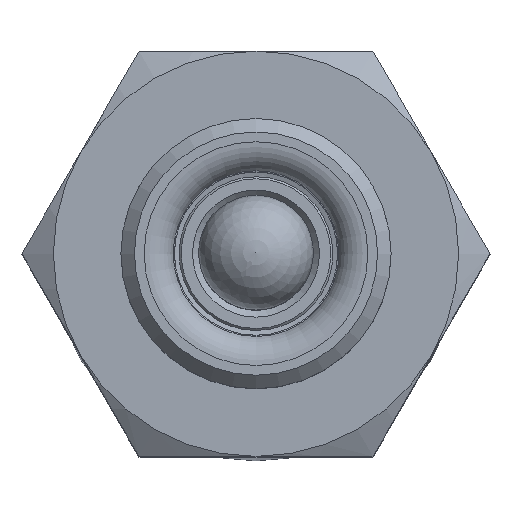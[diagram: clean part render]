
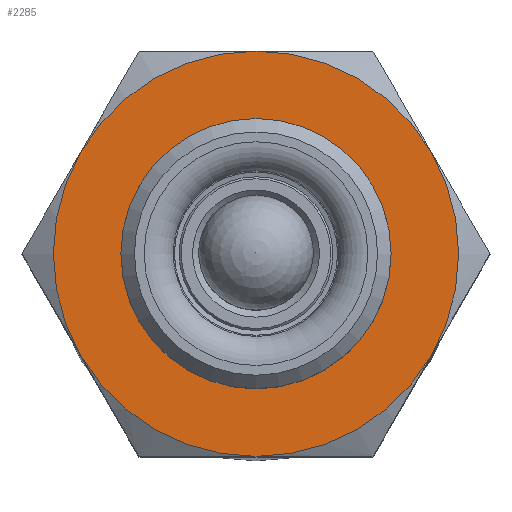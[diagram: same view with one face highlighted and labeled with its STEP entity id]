
A CAD part, top view. The second image highlights one B-rep face of the part: STEP entity #2285.
In plain terms, the highlighted planar face has unit normal (0, 0, 1) as drawn and (1, 0, 0) by its records, which use the part's own axes.
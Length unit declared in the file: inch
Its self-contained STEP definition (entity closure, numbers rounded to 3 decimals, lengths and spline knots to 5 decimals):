
#416=FACE_BOUND('',#733,.T.);
#547=FACE_OUTER_BOUND('',#732,.T.);
#732=EDGE_LOOP('',(#1878,#1879,#1880,#1881,#1882,#1883));
#733=EDGE_LOOP('',(#1884));
#898=CIRCLE('',#2654,0.25006);
#899=CIRCLE('',#2656,0.375);
#900=CIRCLE('',#2657,0.375);
#901=CIRCLE('',#2658,0.375);
#902=CIRCLE('',#2659,0.375);
#903=CIRCLE('',#2660,0.375);
#904=CIRCLE('',#2661,0.375);
#1071=VERTEX_POINT('',#4100);
#1072=VERTEX_POINT('',#4104);
#1073=VERTEX_POINT('',#4105);
#1074=VERTEX_POINT('',#4107);
#1075=VERTEX_POINT('',#4109);
#1076=VERTEX_POINT('',#4111);
#1077=VERTEX_POINT('',#4113);
#1341=EDGE_CURVE('',#1071,#1071,#898,.T.);
#1343=EDGE_CURVE('',#1072,#1073,#899,.T.);
#1344=EDGE_CURVE('',#1073,#1074,#900,.T.);
#1345=EDGE_CURVE('',#1074,#1075,#901,.T.);
#1346=EDGE_CURVE('',#1075,#1076,#902,.T.);
#1347=EDGE_CURVE('',#1076,#1077,#903,.T.);
#1348=EDGE_CURVE('',#1077,#1072,#904,.T.);
#1878=ORIENTED_EDGE('',*,*,#1343,.T.);
#1879=ORIENTED_EDGE('',*,*,#1344,.T.);
#1880=ORIENTED_EDGE('',*,*,#1345,.T.);
#1881=ORIENTED_EDGE('',*,*,#1346,.T.);
#1882=ORIENTED_EDGE('',*,*,#1347,.T.);
#1883=ORIENTED_EDGE('',*,*,#1348,.T.);
#1884=ORIENTED_EDGE('',*,*,#1341,.F.);
#2011=PLANE('',#2655);
#2285=ADVANCED_FACE('',(#547,#416),#2011,.T.);
#2654=AXIS2_PLACEMENT_3D('',#4101,#3347,#3348);
#2655=AXIS2_PLACEMENT_3D('',#4103,#3350,#3351);
#2656=AXIS2_PLACEMENT_3D('',#4106,#3352,#3353);
#2657=AXIS2_PLACEMENT_3D('',#4108,#3354,#3355);
#2658=AXIS2_PLACEMENT_3D('',#4110,#3356,#3357);
#2659=AXIS2_PLACEMENT_3D('',#4112,#3358,#3359);
#2660=AXIS2_PLACEMENT_3D('',#4114,#3360,#3361);
#2661=AXIS2_PLACEMENT_3D('',#4115,#3362,#3363);
#3347=DIRECTION('center_axis',(1.,0.,0.));
#3348=DIRECTION('ref_axis',(0.,0.,1.));
#3350=DIRECTION('center_axis',(1.,0.,0.));
#3351=DIRECTION('ref_axis',(0.,0.,-1.));
#3352=DIRECTION('center_axis',(1.,0.,0.));
#3353=DIRECTION('ref_axis',(0.,1.,0.));
#3354=DIRECTION('center_axis',(1.,0.,0.));
#3355=DIRECTION('ref_axis',(0.,1.,0.));
#3356=DIRECTION('center_axis',(1.,0.,0.));
#3357=DIRECTION('ref_axis',(0.,1.,0.));
#3358=DIRECTION('center_axis',(1.,0.,0.));
#3359=DIRECTION('ref_axis',(0.,1.,0.));
#3360=DIRECTION('center_axis',(1.,0.,0.));
#3361=DIRECTION('ref_axis',(0.,1.,0.));
#3362=DIRECTION('center_axis',(1.,0.,0.));
#3363=DIRECTION('ref_axis',(0.,1.,0.));
#4100=CARTESIAN_POINT('',(0.448,0.,-0.25006));
#4101=CARTESIAN_POINT('Origin',(0.448,0.,0.));
#4103=CARTESIAN_POINT('Origin',(0.448,0.,0.));
#4104=CARTESIAN_POINT('',(0.448,-0.32476,-0.1875));
#4105=CARTESIAN_POINT('',(0.448,0.,-0.375));
#4106=CARTESIAN_POINT('Origin',(0.448,0.,0.));
#4107=CARTESIAN_POINT('',(0.448,0.32476,-0.1875));
#4108=CARTESIAN_POINT('Origin',(0.448,0.,0.));
#4109=CARTESIAN_POINT('',(0.448,0.32476,0.1875));
#4110=CARTESIAN_POINT('Origin',(0.448,0.,0.));
#4111=CARTESIAN_POINT('',(0.448,0.,0.375));
#4112=CARTESIAN_POINT('Origin',(0.448,0.,0.));
#4113=CARTESIAN_POINT('',(0.448,-0.32476,0.1875));
#4114=CARTESIAN_POINT('Origin',(0.448,0.,0.));
#4115=CARTESIAN_POINT('Origin',(0.448,0.,0.));
